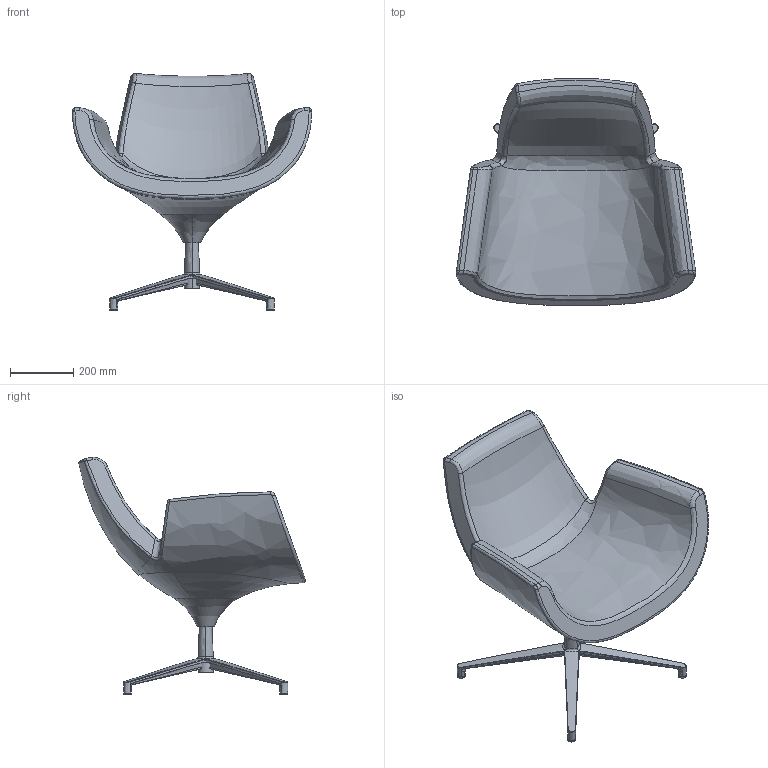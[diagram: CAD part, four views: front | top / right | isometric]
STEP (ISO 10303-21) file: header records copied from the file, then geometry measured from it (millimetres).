
FILE_DESCRIPTION(/* description */ (''),/* implementation_level */ '2;1');
FILE_NAME(/* name */ 'RELAXS~1',/* time_stamp */ '2016-05-11T14:25:44+02:00',/* author */ (''),/* organization */ (''),/* preprocessor_version */ 'ST-DEVELOPER v15',/* originating_system */ '',/* authorisation */ '');
FILE_SCHEMA (('CONFIG_CONTROL_DESIGN'));
Length unit declared in the file: millimetre
Products named in the file (1): Document
Bounding box: 759.08 x 720.07 x 752.54 mm (x, y, z)
Volume: 42178322.9 mm3; surface area: 1576904.3 mm2
Topology: 1 solids, 7 shells, 187 faces, 432 edges, 251 vertices
Faces by surface type: bspline 164, plane 23
Entity records: 14201 total; most frequent: CARTESIAN_POINT 11729, ORIENTED_EDGE 800, EDGE_CURVE 429, VERTEX_POINT 245, B_SPLINE_CURVE_WITH_KNOTS 194, ADVANCED_FACE 187, FACE_OUTER_BOUND 187, EDGE_LOOP 187
